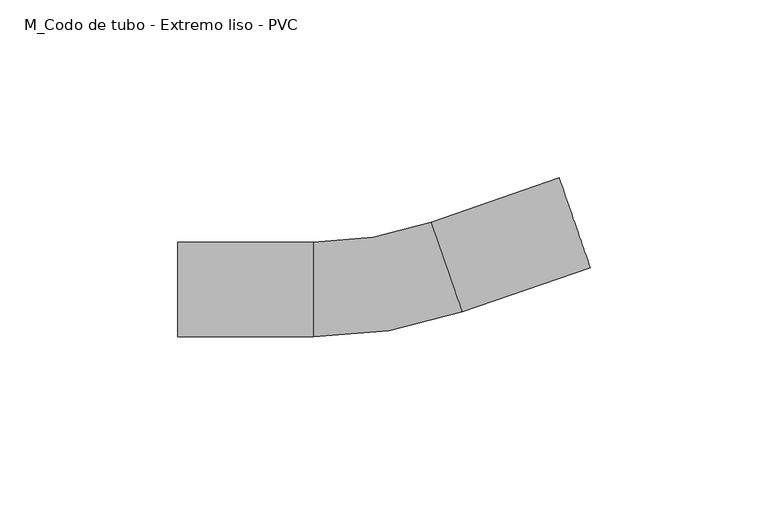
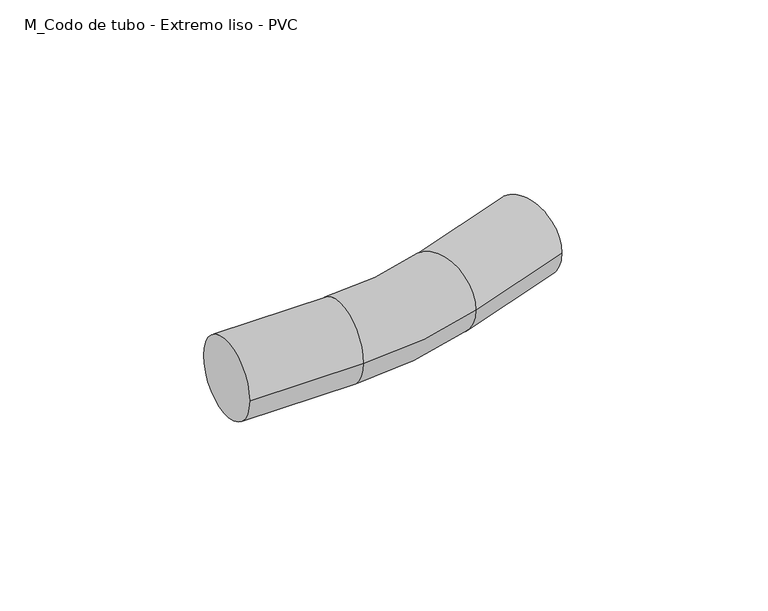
"""IFC4 building model written with IfcOpenShell, lengths in millimetres: cable carrier fitting geometry, M_Codo de tubo - Extremo liso - PVC : CODO POTENCIA."""

from ifc_helpers import new_model, si_unit, point, frame, origin, place, context, project, spatial, circle_curve, ellipse_curve, trimmed, source, transform, mapped, element, save
from ifc_brep_helpers import plane_surface, cylinder_surface, revolved_surface, advanced_brep


def m_codo_de_tubo_extremo_liso_pvc_20e47560(model_context):
    return source(origin(), model_context, "Body", "AdvancedBrep", [
        advanced_brep(
        [(-57.3419284, -13.335, 0.0), (-57.3419284, 13.335, 0.0), (-19.2419284, -13.335, 0.0), (-19.2419284, 13.335, 0.0), (13.8152929, 18.9000454, 0.0), (22.5473891, -6.2999426, 0.0), (58.547372, 6.1744805, 0.0), (49.8152758, 31.3744685, 0.0)],
        [
            (0, 1, circle_curve(frame((-57.3419284, 0.0, 0.0), z_axis=(-1.0, 0.0, 0.0), x_axis=(0.0, 1.0, 0.0)), 13.335)),
            (1, 0, circle_curve(frame((-57.3419284, 0.0, 0.0), z_axis=(-1.0, 0.0, 0.0), x_axis=(0.0, 1.0, 0.0)), 13.335)),
            (0, 2),
            (2, 3, circle_curve(frame((-19.2419284, 0.0, 0.0), z_axis=(-1.0, 0.0, 0.0), x_axis=(0.0, 1.0, 0.0)), 13.335)),
            (3, 1),
            (3, 2, circle_curve(frame((-19.2419284, 0.0, 0.0), z_axis=(-1.0, 0.0, 0.0), x_axis=(0.0, 1.0, 0.0)), 13.335)),
            (4, 3, circle_curve(frame((-19.2419284, 114.3, 0.0), z_axis=(0.0, 0.0, -1.0), x_axis=(0.0, -1.0, 0.0)), 100.965)),
            (2, 5, circle_curve(frame((-19.2419284, 114.3, 0.0), z_axis=(0.0, 0.0, 1.0), x_axis=(0.0, -1.0, 0.0)), 127.635)),
            (5, 4, circle_curve(frame((18.181341, 6.3000514, 0.0), z_axis=(-0.9448814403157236, -0.3274126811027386, 0.0), x_axis=(-0.3274126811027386, 0.9448814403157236, 0.0)), 13.335)),
            (4, 5, circle_curve(frame((18.181341, 6.3000514, 0.0), z_axis=(-0.9448814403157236, -0.3274126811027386, 0.0), x_axis=(-0.3274126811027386, 0.9448814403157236, 0.0)), 13.335)),
            (6, 7, circle_curve(frame((54.1813239, 18.7744745, 0.0), z_axis=(0.9448814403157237, 0.3274126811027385, 0.0), x_axis=(-0.3274126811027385, 0.9448814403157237, 0.0)), 13.335)),
            (7, 6, circle_curve(frame((54.1813239, 18.7744745, 0.0), z_axis=(0.9448814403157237, 0.3274126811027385, 0.0), x_axis=(-0.3274126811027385, 0.9448814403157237, 0.0)), 13.335)),
            (5, 6),
            (7, 4),
        ],
        [
            plane_surface(frame((-57.3419284, 0.0, 0.0), z_axis=(-1.0, 0.0, 0.0), x_axis=(0.0, 0.0, 1.0))),
            cylinder_surface(frame((-57.3419284, 0.0, 0.0), z_axis=(-1.0, 0.0, 0.0), x_axis=(0.0, 1.0, 0.0)), 13.335),
            revolved_surface(trimmed(ellipse_curve(frame((-19.2419284, 0.0, 0.0), z_axis=(-1.0, 0.0, 0.0), x_axis=(0.0, 1.0, 0.0)), 13.335, 13.335), [point((-19.2419284, -13.335, 0.0))], [point((-19.2419284, 13.335, 0.0))], True, "CARTESIAN"), (-19.2419284, 114.3, 0.0), (0.0, 0.0, 1.0)),
            revolved_surface(trimmed(ellipse_curve(frame((-19.2419284, 0.0, 0.0), z_axis=(-1.0, 0.0, 0.0), x_axis=(0.0, 1.0, 0.0)), 13.335, 13.335), [point((-19.2419284, 13.335, 0.0))], [point((-19.2419284, -13.335, 0.0))], True, "CARTESIAN"), (-19.2419284, 114.3, 0.0), (0.0, 0.0, 1.0)),
            plane_surface(frame((54.1813239, 18.7744745, 0.0), z_axis=(0.9448814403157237, 0.3274126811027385, 0.0), x_axis=(0.0, 0.0, 1.0))),
            cylinder_surface(frame((18.181341, 6.3000514, 0.0), z_axis=(-0.9448814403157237, -0.3274126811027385, 0.0), x_axis=(-0.3274126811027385, 0.9448814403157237, 0.0)), 13.335),
        ],
        [
            (0, [[1, 2]]),
            (1, [[-1, 3, 4, 5]]),
            (1, [[-2, -5, 6, -3]]),
            (2, [[7, -4, 8, 9]]),
            (3, [[-8, -6, -7, 10]]),
            (4, [[11, 12]]),
            (5, [[-9, 13, -12, 14]]),
            (5, [[-10, -14, -11, -13]]),
        ],
    ),
    ])


if __name__ == "__main__":
    model = new_model("IFC4")
    model_context = context("Model", 3, world=origin())
    ifc_project = project(units=[si_unit("LENGTHUNIT", "METRE", prefix="MILLI")], contexts=[model_context])
    site = spatial("IfcSite", under=ifc_project)
    building = spatial("IfcBuilding", under=site)
    placement = place(None, origin())
    m_codo_de_tubo_extremo_liso_pvc_shape = m_codo_de_tubo_extremo_liso_pvc_20e47560(model_context)
    element("IfcCableCarrierFitting", 1, ObjectType="M_Codo de tubo - Extremo liso - PVC : CODO POTENCIA", at=placement, inside=building, context=model_context, shape_type="MappedRepresentation", body=[
        mapped(m_codo_de_tubo_extremo_liso_pvc_shape, transform((0.0, 0.0, 0.0), x_axis=(1.0, 0.0, 0.0), y_axis=(0.0, 1.0, 0.0), z_axis=(0.0, 0.0, 1.0))),
    ])
    save(model, "model.ifc")
